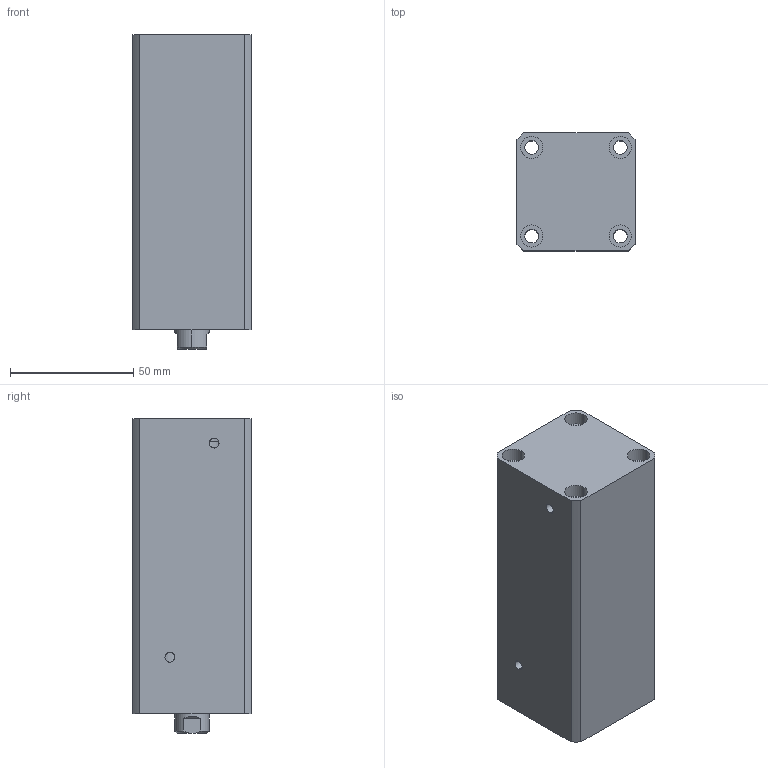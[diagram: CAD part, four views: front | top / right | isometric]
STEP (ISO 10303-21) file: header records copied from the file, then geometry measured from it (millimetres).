
FILE_DESCRIPTION (( 'STEP AP214' ), '1' );
FILE_NAME ('chtb-sdma25x75n_asm.STEP', '2018-05-22T07:09:08', ( 'Windows' ), ( 'Microsoft' ), 'SwSTEP 2.0', 'SolidWorks 2015', '' );
FILE_SCHEMA (( 'AUTOMOTIVE_DESIGN' ));
Length unit declared in the file: millimetre
Products named in the file (4): CHTB-SDMA25X75NHSG; CHTB-SDMA25X75NBT; CHTB-25QG; chtb-sdma25x75n_asm
Assembly tree (3 placements, depth 2):
  chtb-sdma25x75n_asm
    CHTB-25QG
    CHTB-SDMA25X75NBT
    CHTB-SDMA25X75NHSG
Bounding box: 48 x 48 x 128 mm (x, y, z)
Volume: 233411.7 mm3; surface area: 58956.5 mm2
Topology: 3 solids, 3 shells, 142 faces, 379 edges, 257 vertices
Faces by surface type: cylinder 89, plane 34, bspline 10, cone 9
Entity records: 8020 total; most frequent: CARTESIAN_POINT 4393, ORIENTED_EDGE 746, DIRECTION 661, EDGE_CURVE 373, AXIS2_PLACEMENT_3D 272, VERTEX_POINT 257, EDGE_LOOP 180, FACE_OUTER_BOUND 142
